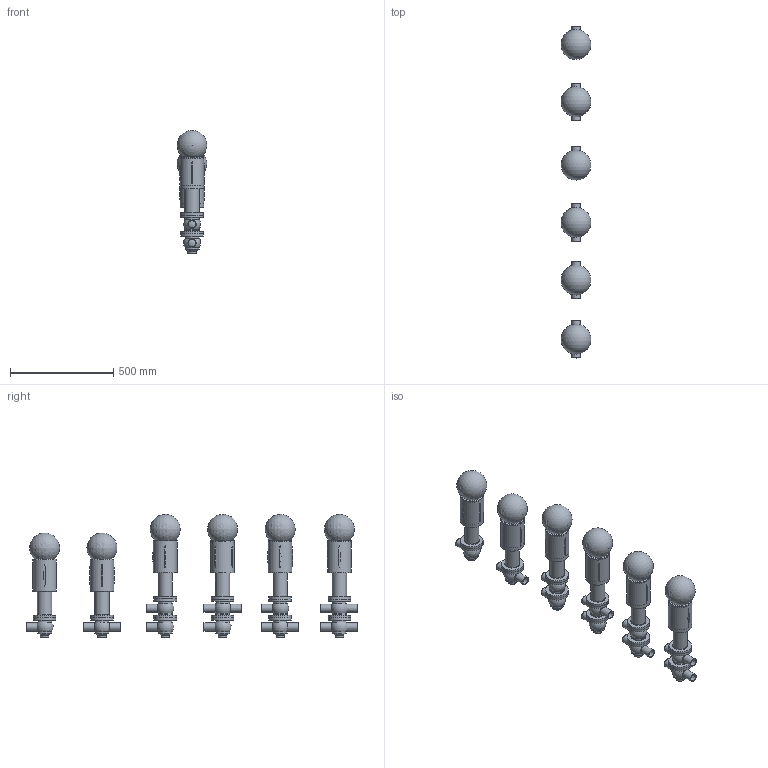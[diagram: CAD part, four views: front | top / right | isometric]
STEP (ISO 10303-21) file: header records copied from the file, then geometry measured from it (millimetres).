
FILE_DESCRIPTION(/* description */ (''),/* implementation_level */ '2;1');
FILE_NAME(/* name */ 'C:\Users\marz-m\Desktop\PDF\BBZQ 3D STEP\BBZQ-DN40-CIL.108.stp',/* time_stamp */ '2018-04-13T14:50:46+02:00',/* author */ ('marz-m'),/* organization */ (''),/* preprocessor_version */ 'ST-DEVELOPER v17',/* originating_system */ 'Autodesk Inventor 2018',/* authorisation */ '');
FILE_SCHEMA (('AUTOMOTIVE_DESIGN { 1 0 10303 214 3 1 1 }'));
Length unit declared in the file: millimetre
Products named in the file (8): BBZQ-CIL.108-DN40; COR-INF-L-BBZQ-DN40X2.5-SALD; COR-INF-T-BBZQ-DN40X2.5-SALD; assemblaggio dn40 per cil 108-156; CIL108; SAGOMA-GIOTTO-; CORPO-SUP-SUP-BBZQ-L-DN40-SALD; CORPO-SUP-SUP-BBZQ-T-DN40-SALD
Assembly tree (28 placements, depth 2):
  BBZQ-CIL.108-DN40
    COR-INF-L-BBZQ-DN40X2.5-SALD  x3
    COR-INF-T-BBZQ-DN40X2.5-SALD  x3
    assemblaggio dn40 per cil 108-156  x6
    CIL108  x6
    SAGOMA-GIOTTO-  x6
    CORPO-SUP-SUP-BBZQ-L-DN40-SALD  x2
    CORPO-SUP-SUP-BBZQ-T-DN40-SALD  x2
Bounding box: 144.47 x 1605.61 x 595.51 mm (x, y, z)
Volume: 19737801 mm3; surface area: 2182444.2 mm2
Topology: 28 solids, 34 shells, 386 faces, 921 edges, 684 vertices
Faces by surface type: plane 118, cylinder 109, cone 66, torus 62, sphere 31
Full cylindrical faces by diameter (mm): 20 x12, 35 x18, 40 x21, 68 x20, 69 x6, 108.5 x6, 109 x20, 114 x6
Entity records: 3860 total; most frequent: CARTESIAN_POINT 853, DIRECTION 666, ORIENTED_EDGE 486, AXIS2_PLACEMENT_3D 313, EDGE_CURVE 243, VERTEX_POINT 180, CIRCLE 171, EDGE_LOOP 133
